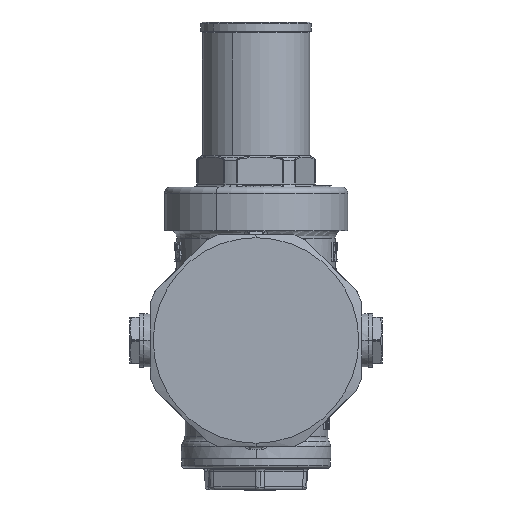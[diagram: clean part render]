
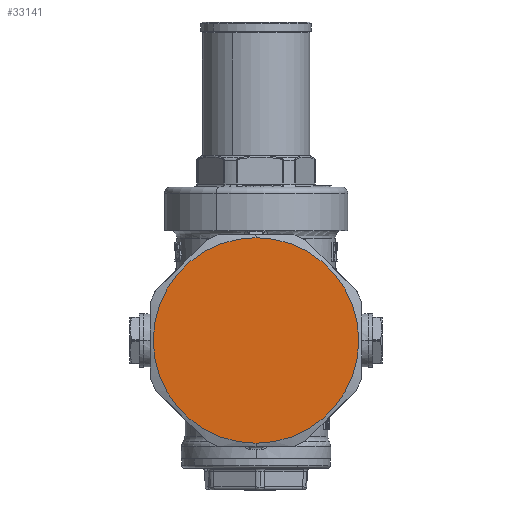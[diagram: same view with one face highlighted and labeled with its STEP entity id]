
A CAD part, left-side view. The second image highlights one B-rep face of the part: STEP entity #33141.
In plain terms, the highlighted planar face has unit normal (-1, 0, 0).
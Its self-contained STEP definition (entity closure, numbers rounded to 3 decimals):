
#3771 = CARTESIAN_POINT ( 'NONE',  ( -48.5, -33., 0. ) ) ;
#4000 = EDGE_CURVE ( 'NONE', #27472, #27204, #25822, .T. ) ;
#11410 = DIRECTION ( 'NONE',  ( -1., 0., 0. ) ) ;
#11484 = CIRCLE ( 'NONE', #41576, 33. ) ;
#12273 = CARTESIAN_POINT ( 'NONE',  ( -48.5, 33., 0. ) ) ;
#14440 = FACE_OUTER_BOUND ( 'NONE', #42342, .T. ) ;
#18987 = PLANE ( 'NONE',  #40255 ) ;
#21495 = DIRECTION ( 'NONE',  ( -1., 0., 0. ) ) ;
#24115 = CARTESIAN_POINT ( 'NONE',  ( -48.5, 0., 0. ) ) ;
#24124 = CARTESIAN_POINT ( 'NONE',  ( -48.5, 33., 0. ) ) ;
#25822 = CIRCLE ( 'NONE', #50591, 33. ) ;
#26662 = EDGE_CURVE ( 'NONE', #27204, #27472, #11484, .T. ) ;
#27204 = VERTEX_POINT ( 'NONE', #3771 ) ;
#27472 = VERTEX_POINT ( 'NONE', #24124 ) ;
#30138 = CARTESIAN_POINT ( 'NONE',  ( -48.5, 0., 0. ) ) ;
#30976 = ORIENTED_EDGE ( 'NONE', *, *, #26662, .T. ) ;
#33141 = ADVANCED_FACE ( 'NONE', ( #14440 ), #18987, .F. ) ;
#37314 = DIRECTION ( 'NONE',  ( 0., 1., 0. ) ) ;
#40255 = AXIS2_PLACEMENT_3D ( 'NONE', #12273, #49576, #37314 ) ;
#41576 = AXIS2_PLACEMENT_3D ( 'NONE', #24115, #11410, #48194 ) ;
#42168 = DIRECTION ( 'NONE',  ( 0., 0., 1. ) ) ;
#42342 = EDGE_LOOP ( 'NONE', ( #43130, #30976 ) ) ;
#43130 = ORIENTED_EDGE ( 'NONE', *, *, #4000, .T. ) ;
#48194 = DIRECTION ( 'NONE',  ( 0., 0., 1. ) ) ;
#49576 = DIRECTION ( 'NONE',  ( 1., 0., 0. ) ) ;
#50591 = AXIS2_PLACEMENT_3D ( 'NONE', #30138, #21495, #42168 ) ;
